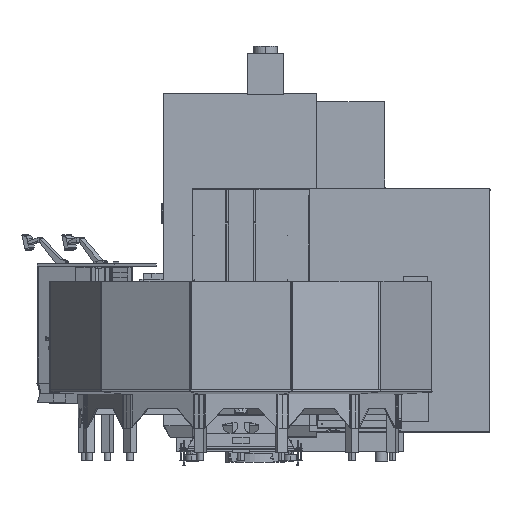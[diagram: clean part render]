
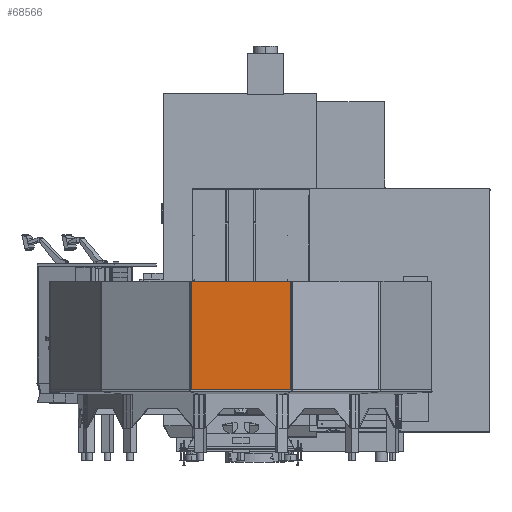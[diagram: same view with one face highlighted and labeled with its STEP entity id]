
A CAD part, top view. The second image highlights one B-rep face of the part: STEP entity #68566.
In plain terms, the highlighted planar face has unit normal (0, 0, 1).
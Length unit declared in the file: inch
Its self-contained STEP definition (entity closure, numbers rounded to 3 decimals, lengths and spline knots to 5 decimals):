
#14300 = DIRECTION ( 'NONE',  ( -1., 0., 0. ) ) ;
#34309 = LINE ( 'NONE', #130798, #192003 ) ;
#36683 = CARTESIAN_POINT ( 'NONE',  ( -20.36469, 72., 76.6582 ) ) ;
#39195 = LINE ( 'NONE', #274948, #86097 ) ;
#39950 = AXIS2_PLACEMENT_3D ( 'NONE', #43673, #207475, #251874 ) ;
#43673 = CARTESIAN_POINT ( 'NONE',  ( -20.46068, 72., 76.6582 ) ) ;
#59712 = CARTESIAN_POINT ( 'NONE',  ( 20.40921, 72., 76.6582 ) ) ;
#62348 = EDGE_LOOP ( 'NONE', ( #249599, #186119, #197953, #212764 ) ) ;
#68566 = ADVANCED_FACE ( 'NONE', ( #114183 ), #204474, .T. ) ;
#86097 = VECTOR ( 'NONE', #229022, 39.37008 ) ;
#87572 = VECTOR ( 'NONE', #286773, 39.37008 ) ;
#101570 = LINE ( 'NONE', #193418, #87572 ) ;
#114183 = FACE_OUTER_BOUND ( 'NONE', #62348, .T. ) ;
#130798 = CARTESIAN_POINT ( 'NONE',  ( -20.46068, 28.55202, 76.6582 ) ) ;
#142853 = EDGE_CURVE ( 'NONE', #272857, #223401, #39195, .T. ) ;
#186119 = ORIENTED_EDGE ( 'NONE', *, *, #217820, .F. ) ;
#192003 = VECTOR ( 'NONE', #14300, 39.37008 ) ;
#193418 = CARTESIAN_POINT ( 'NONE',  ( -20.36469, 72., 76.6582 ) ) ;
#197953 = ORIENTED_EDGE ( 'NONE', *, *, #142853, .T. ) ;
#200063 = EDGE_CURVE ( 'NONE', #237920, #299257, #34309, .T. ) ;
#204474 = PLANE ( 'NONE',  #39950 ) ;
#207475 = DIRECTION ( 'NONE',  ( 0., 0., 1. ) ) ;
#212550 = DIRECTION ( 'NONE',  ( 0., -1., 0. ) ) ;
#212764 = ORIENTED_EDGE ( 'NONE', *, *, #271594, .T. ) ;
#217820 = EDGE_CURVE ( 'NONE', #272857, #237920, #229480, .T. ) ;
#223401 = VERTEX_POINT ( 'NONE', #36683 ) ;
#229022 = DIRECTION ( 'NONE',  ( -1., 0., 0. ) ) ;
#229480 = LINE ( 'NONE', #59712, #294161 ) ;
#237920 = VERTEX_POINT ( 'NONE', #276688 ) ;
#249466 = CARTESIAN_POINT ( 'NONE',  ( 20.40921, 72., 76.6582 ) ) ;
#249599 = ORIENTED_EDGE ( 'NONE', *, *, #200063, .F. ) ;
#251874 = DIRECTION ( 'NONE',  ( 1., 0., 0. ) ) ;
#271594 = EDGE_CURVE ( 'NONE', #223401, #299257, #101570, .T. ) ;
#272857 = VERTEX_POINT ( 'NONE', #249466 ) ;
#274948 = CARTESIAN_POINT ( 'NONE',  ( -20.46068, 72., 76.6582 ) ) ;
#276688 = CARTESIAN_POINT ( 'NONE',  ( 20.40921, 28.55202, 76.6582 ) ) ;
#277355 = CARTESIAN_POINT ( 'NONE',  ( -20.36469, 28.55202, 76.6582 ) ) ;
#286773 = DIRECTION ( 'NONE',  ( 0., -1., 0. ) ) ;
#294161 = VECTOR ( 'NONE', #212550, 39.37008 ) ;
#299257 = VERTEX_POINT ( 'NONE', #277355 ) ;
